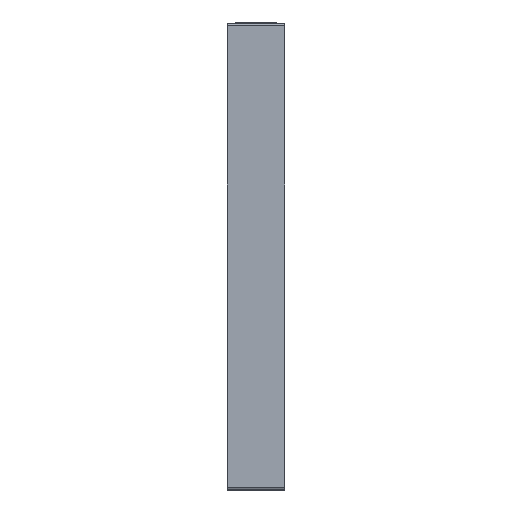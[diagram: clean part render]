
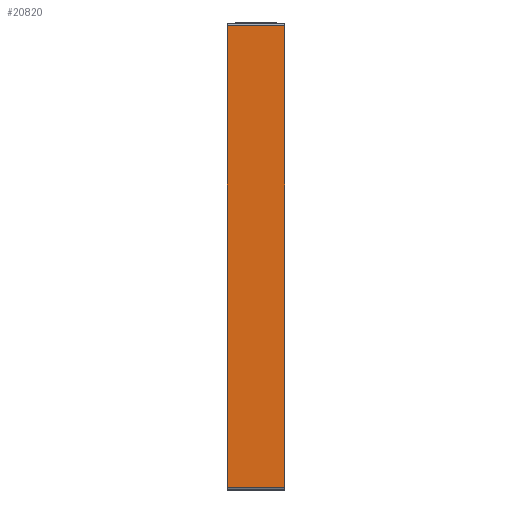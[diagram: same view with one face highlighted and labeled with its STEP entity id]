
A CAD part, top view. The second image highlights one B-rep face of the part: STEP entity #20820.
In plain terms, the highlighted planar face has unit normal (0, 0, 1).
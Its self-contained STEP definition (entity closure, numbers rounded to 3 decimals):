
#1489 = FACE_OUTER_BOUND ( 'NONE', #21821, .T. ) ;
#2290 = ORIENTED_EDGE ( 'NONE', *, *, #6976, .F. ) ;
#3219 = EDGE_CURVE ( 'NONE', #20206, #29287, #12557, .T. ) ;
#3928 = EDGE_CURVE ( 'NONE', #25686, #29287, #7008, .T. ) ;
#4630 = CARTESIAN_POINT ( 'NONE',  ( -16.971, 57.501, 38.155 ) ) ;
#5538 = VECTOR ( 'NONE', #27910, 1000. ) ;
#6013 = VECTOR ( 'NONE', #6746, 1000. ) ;
#6400 = DIRECTION ( 'NONE',  ( 0., -1., 0. ) ) ;
#6746 = DIRECTION ( 'NONE',  ( 1., 0., 0. ) ) ;
#6976 = EDGE_CURVE ( 'NONE', #20206, #11981, #9153, .T. ) ;
#7008 = LINE ( 'NONE', #18357, #5538 ) ;
#8462 = VECTOR ( 'NONE', #24312, 1000. ) ;
#8502 = CARTESIAN_POINT ( 'NONE',  ( -119.047, 57.501, 38.155 ) ) ;
#9153 = LINE ( 'NONE', #14484, #14368 ) ;
#9757 = DIRECTION ( 'NONE',  ( 0., 1., 0. ) ) ;
#10477 = AXIS2_PLACEMENT_3D ( 'NONE', #8502, #20117, #6400 ) ;
#11454 = LINE ( 'NONE', #13750, #6013 ) ;
#11981 = VERTEX_POINT ( 'NONE', #4630 ) ;
#12557 = LINE ( 'NONE', #21608, #8462 ) ;
#13105 = ORIENTED_EDGE ( 'NONE', *, *, #27599, .F. ) ;
#13750 = CARTESIAN_POINT ( 'NONE',  ( -119.047, 57.501, 38.155 ) ) ;
#14368 = VECTOR ( 'NONE', #9757, 1000. ) ;
#14484 = CARTESIAN_POINT ( 'NONE',  ( -16.971, 57.501, 38.155 ) ) ;
#15054 = CARTESIAN_POINT ( 'NONE',  ( -4.521, 57.501, 38.155 ) ) ;
#17750 = ORIENTED_EDGE ( 'NONE', *, *, #3928, .F. ) ;
#18357 = CARTESIAN_POINT ( 'NONE',  ( -4.521, 57.501, 38.155 ) ) ;
#20117 = DIRECTION ( 'NONE',  ( 0., 0., 1. ) ) ;
#20206 = VERTEX_POINT ( 'NONE', #25265 ) ;
#20276 = PLANE ( 'NONE',  #10477 ) ;
#20820 = ADVANCED_FACE ( 'NONE', ( #1489 ), #20276, .T. ) ;
#21608 = CARTESIAN_POINT ( 'NONE',  ( -119.047, -43.299, 38.155 ) ) ;
#21821 = EDGE_LOOP ( 'NONE', ( #2290, #28213, #17750, #13105 ) ) ;
#24133 = CARTESIAN_POINT ( 'NONE',  ( -4.521, -43.299, 38.155 ) ) ;
#24312 = DIRECTION ( 'NONE',  ( 1., 0., 0. ) ) ;
#25265 = CARTESIAN_POINT ( 'NONE',  ( -16.971, -43.299, 38.155 ) ) ;
#25686 = VERTEX_POINT ( 'NONE', #15054 ) ;
#27599 = EDGE_CURVE ( 'NONE', #11981, #25686, #11454, .T. ) ;
#27910 = DIRECTION ( 'NONE',  ( 0., -1., 0. ) ) ;
#28213 = ORIENTED_EDGE ( 'NONE', *, *, #3219, .T. ) ;
#29287 = VERTEX_POINT ( 'NONE', #24133 ) ;
